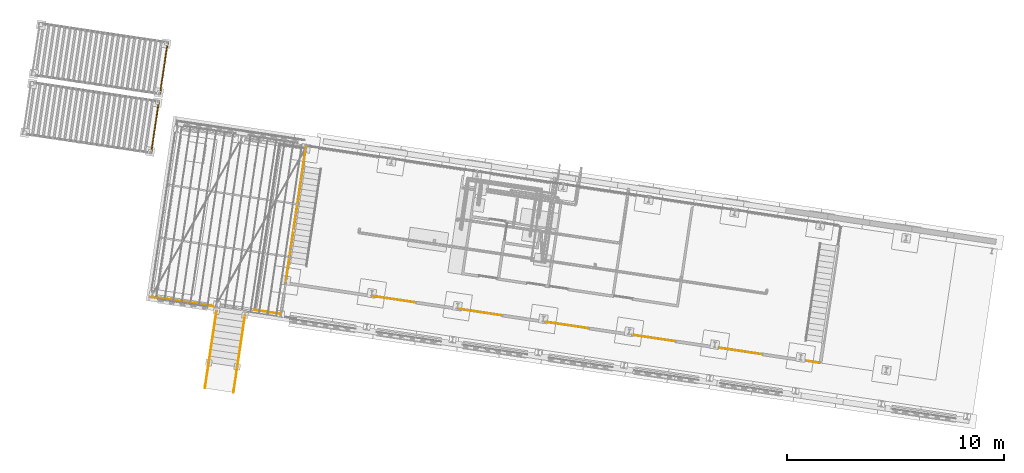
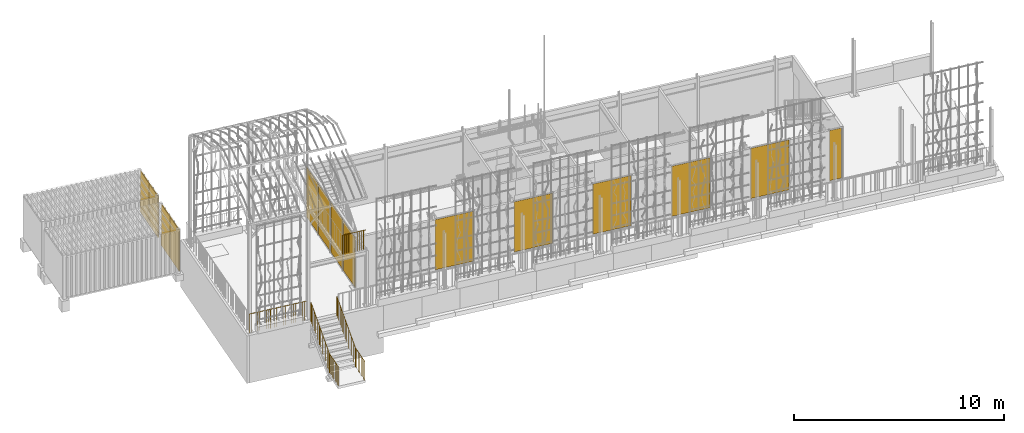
# One storey, part 132 of 142: 11 doors, 6 railings, 3 windows, 5 elements without a shape of their own.
"""IFC4 building model written with IfcOpenShell, lengths in metres."""

import ifcopenshell
import ifcopenshell.guid

model = None  # the IFC model being written
_history = None  # IfcOwnerHistory: only IFC2X3 demands one
_inside = {}  # id of a spatial element -> (the spatial element, [elements in it])
_under = {}  # id of a project, library or spatial element -> (it, [spatial elements below it])
_declared = {}  # id of a project -> (the project, [libraries it declares])
_typed = {}  # id of a type object -> (the type object, [elements of that type])
_made_of = {}  # id of a material, layer set ... -> (it, [elements and type objects made of it])


def new_model(schema):
    """Start an empty IFC model of exactly this schema.

    Asked for "IFC4X3", IfcOpenShell would pick the latest addendum, in which some entities
    have other attributes; the version numbers below select the first issue.
    IFC2X3 requires an IfcOwnerHistory on every rooted entity: one is made here for all.
    """
    global model, _history
    if schema == "IFC4X3":
        model = ifcopenshell.file(schema_version=(4, 3, 0, 0))
    else:
        model = ifcopenshell.file(schema=schema)
    _inside.clear()
    _under.clear()
    _declared.clear()
    _typed.clear()
    _made_of.clear()
    _history = None
    if model.schema == "IFC2X3":
        org = make("IfcOrganization", Name="unknown")
        user = make(
            "IfcPersonAndOrganization",
            ThePerson=make("IfcPerson", FamilyName="unknown"),
            TheOrganization=org,
        )
        app = make(
            "IfcApplication",
            ApplicationDeveloper=org,
            Version="unknown",
            ApplicationFullName="unknown",
            ApplicationIdentifier="unknown",
        )
        _history = make(
            "IfcOwnerHistory",
            OwningUser=user,
            OwningApplication=app,
            ChangeAction="ADDED",
            CreationDate=0,
        )
    return model


def make(cls, **values):
    """One entity of the class cls with the attributes given. An attribute that is None is left unset."""
    return model.create_entity(
        cls, **{name: value for name, value in values.items() if value is not None}
    )


def rooted(cls, **values):
    """An entity with a GlobalId (a new one), such as an element, a storey or a relation."""
    return make(cls, GlobalId=ifcopenshell.guid.new(), OwnerHistory=_history, **values)


def si_unit(unit_type, name, prefix=None):
    """IfcSIUnit, for example si_unit("LENGTHUNIT", "METRE", prefix="MILLI")."""
    return make("IfcSIUnit", UnitType=unit_type, Prefix=prefix, Name=name)


def assignment(units):
    """IfcUnitAssignment: the units of a project."""
    return None if units is None else make("IfcUnitAssignment", Units=units)


def point(xyz):
    """IfcCartesianPoint."""
    return None if xyz is None else make("IfcCartesianPoint", Coordinates=xyz)


def direction(xyz):
    """IfcDirection."""
    return None if xyz is None else make("IfcDirection", DirectionRatios=xyz)


def frame(location, z_axis=None, x_axis=None):
    """IfcAxis2Placement3D, a coordinate frame: its origin and axes. An axis left out is left unset."""
    return make(
        "IfcAxis2Placement3D",
        Location=point(location),
        Axis=direction(z_axis),
        RefDirection=direction(x_axis),
    )


def origin_with_axes():
    """The frame at (0, 0, 0) with the z axis (0, 0, 1) and the x axis (1, 0, 0) written out."""
    return frame((0.0, 0.0, 0.0), z_axis=(0.0, 0.0, 1.0), x_axis=(1.0, 0.0, 0.0))


def place(relative_to, where):
    """IfcLocalPlacement: puts the frame where relative to a parent placement (None: the world)."""
    return make(
        "IfcLocalPlacement", PlacementRelTo=relative_to, RelativePlacement=where
    )


def context(
    kind, dimensions, precision=None, world=None, true_north=None, identifier=None
):
    """IfcGeometricRepresentationContext, for example the 3D "Model" context."""
    return make(
        "IfcGeometricRepresentationContext",
        ContextIdentifier=identifier,
        ContextType=kind,
        CoordinateSpaceDimension=dimensions,
        Precision=precision,
        WorldCoordinateSystem=world,
        TrueNorth=true_north,
    )


def subcontext(parent, identifier, kind, view, scale=None):
    """IfcGeometricRepresentationSubContext, for example "Body" below "Model"."""
    return make(
        "IfcGeometricRepresentationSubContext",
        ContextIdentifier=identifier,
        ContextType=kind,
        ParentContext=parent,
        TargetScale=scale,
        TargetView=view,
    )


def project(units=None, contexts=None):
    """IfcProject with its units and contexts."""
    return rooted(
        "IfcProject",
        Name="project",
        RepresentationContexts=contexts,
        UnitsInContext=assignment(units),
    )


def spatial(cls, under=None, at=None, **own):
    """A site, building, storey or space (cls), placed at a placement, below another one or the project."""
    s = rooted(cls, ObjectPlacement=at, **own)
    if under is not None:
        _under.setdefault(under.id(), (under, []))[1].append(s)
    return s


def polyline(points):
    """IfcPolyline through the points."""
    return make("IfcPolyline", Points=[point(p) for p in points])


def profile(cls, at=None, kind="AREA", **sizes):
    """A parametric profile (cls). Its sizes go by their IFC names, for example OverallWidth=200.0."""
    return make(cls, ProfileType=kind, Position=at, **sizes)


def circle(**sizes):
    """IfcCircleProfileDef."""
    return profile("IfcCircleProfileDef", **sizes)


def outline(outer, holes=None, kind="AREA"):
    """IfcArbitraryClosedProfileDef: a profile drawn as a closed curve; with holes, ...WithVoids."""
    if holes is None:
        return make("IfcArbitraryClosedProfileDef", ProfileType=kind, OuterCurve=outer)
    return make(
        "IfcArbitraryProfileDefWithVoids",
        ProfileType=kind,
        OuterCurve=outer,
        InnerCurves=holes,
    )


def extrude(swept, where, along, depth):
    """IfcExtrudedAreaSolid: the profile swept, set in the frame where, extruded along a direction by depth."""
    return make(
        "IfcExtrudedAreaSolid",
        SweptArea=swept,
        Position=where,
        ExtrudedDirection=direction(along),
        Depth=depth,
    )


def shape(context_of_items, identifier, shape_type, items):
    """IfcShapeRepresentation: the items that make up one representation, for example the "Body"."""
    return make(
        "IfcShapeRepresentation",
        ContextOfItems=context_of_items,
        RepresentationIdentifier=identifier,
        RepresentationType=shape_type,
        Items=items,
    )


def material(Name=None, Category=None):
    """IfcMaterial."""
    return make("IfcMaterial", Name=Name, Category=Category)


def made_of(thing, what):
    """Note that an element or type object is made of a material, layer set ...; save() writes the relation."""
    if what is not None:
        _made_of.setdefault(what.id(), (what, []))[1].append(thing)
    return thing


def element(
    cls,
    number,
    at=None,
    inside=None,
    cuts=None,
    type_object=None,
    material=None,
    context=None,
    identifier="Body",
    shape_type=None,
    held_by="IfcProductDefinitionShape",
    body=None,
    shapes=None,
    **own,
):
    """One element of the class cls, such as IfcWall. Its Tag is "e" and its number.

    at: its placement. inside: the storey or other place that contains it. cuts: it is an
    opening in that element (IfcRelVoidsElement). A single representation is given by context,
    identifier, shape_type and body (its items); several are given by shapes. held_by: the class
    of the entity that holds the representations. save() writes the other relations.
    """
    e = rooted(cls, Tag="e%d" % number, ObjectPlacement=at, **own)
    if body is not None:
        shapes = [shape(context, identifier, shape_type, body)]
    if shapes is not None:
        e.Representation = make(held_by, Representations=shapes)
    if inside is not None:
        _inside.setdefault(inside.id(), (inside, []))[1].append(e)
    if cuts is not None:
        rooted(
            "IfcRelVoidsElement", RelatingBuildingElement=cuts, RelatedOpeningElement=e
        )
    if type_object is not None:
        _typed.setdefault(type_object.id(), (type_object, []))[1].append(e)
    return made_of(e, material)


def aggregate(whole, parts):
    """IfcRelAggregates: a whole, such as a stair, and the parts it consists of."""
    return rooted("IfcRelAggregates", RelatingObject=whole, RelatedObjects=parts)


def save(model, path):
    """Write the relations noted so far, then the file.

    IfcRelAggregates (storeys below a building ...), IfcRelContainedInSpatialStructure (elements
    in a storey), IfcRelDefinesByType, IfcRelAssociatesMaterial and IfcRelDeclares: one each for
    every whole, place, type object, material and project.
    """
    for whole, parts in _under.values():
        aggregate(whole, parts)
    for where, things in _inside.values():
        rooted(
            "IfcRelContainedInSpatialStructure",
            RelatedElements=things,
            RelatingStructure=where,
        )
    for kind, things in _typed.values():
        rooted("IfcRelDefinesByType", RelatedObjects=things, RelatingType=kind)
    for what, things in _made_of.values():
        rooted("IfcRelAssociatesMaterial", RelatedObjects=things, RelatingMaterial=what)
    for by, libraries in _declared.values():
        rooted("IfcRelDeclares", RelatingContext=by, RelatedDefinitions=libraries)
    model.write(path)


model = new_model("IFC4")

# Units and contexts
model_context = context("Model", 3, precision=1e-05, world=origin_with_axes(), true_north=direction((0.0, 1.0)))
body_context = subcontext(model_context, "Body", "Model", "MODEL_VIEW")
ifc_project = project(units=[si_unit("VOLUMEUNIT", "CUBIC_METRE"), si_unit("LENGTHUNIT", "METRE"), si_unit("AREAUNIT", "SQUARE_METRE")], contexts=[model_context])

# Site, building, storey
site_placement = place(None, origin_with_axes())
site = spatial("IfcSite", under=ifc_project, at=site_placement, Name="Lares · Rua das Mercês · artigo 4771")
building_placement = place(site_placement, frame((12.0, 10.2, 13.9), z_axis=(0.0, 0.0, 1.0), x_axis=(0.989015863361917, -0.147809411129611, 0.0)))
building = spatial("IfcBuilding", under=site, at=building_placement, Name="Casa Sobreposta")
storey_placement = place(building_placement, origin_with_axes())
storey = spatial("IfcBuildingStorey", under=building, at=storey_placement, Name="00 · Habitação e estacionamento", Elevation=13.9)

# Doors
ifc_material_1 = material(Name="Vidro / Normalglas", Category="glass")
door_1_placement = place(storey_placement, frame((0.0, 0.0, 0.025), z_axis=(0.0, 0.0, 1.0), x_axis=(1.0, 0.0, 0.0)))
element("IfcDoor", 1, at=door_1_placement, inside=storey, material=ifc_material_1, Name="Folha de correr sul 2", OperationType="SLIDING_TO_LEFT", OverallHeight=2.918, OverallWidth=1.97133333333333, PredefinedType="DOOR", context=body_context, shape_type="SweptSolid", body=[
    extrude(outline(polyline([(6.039, 0.004), (6.039, -0.004), (4.06766666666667, -0.004), (4.06766666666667, 0.004), (6.039, 0.004)])), origin_with_axes(), (0.0, 0.0, 1.0), 2.918),
])
door_2_placement = place(storey_placement, frame((0.0, 0.0, 0.025), z_axis=(0.0, 0.0, 1.0), x_axis=(1.0, 0.0, 0.0)))
element("IfcDoor", 2, at=door_2_placement, inside=storey, material=ifc_material_1, Name="Folha de correr sul 4", OperationType="SLIDING_TO_LEFT", OverallHeight=2.918, OverallWidth=1.97133333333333, PredefinedType="DOOR", context=body_context, shape_type="SweptSolid", body=[
    extrude(outline(polyline([(10.0816666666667, 0.004), (10.0816666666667, -0.004), (8.11033333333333, -0.004), (8.11033333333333, 0.004), (10.0816666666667, 0.004)])), origin_with_axes(), (0.0, 0.0, 1.0), 2.918),
])
door_3_placement = place(storey_placement, frame((0.0, 0.0, 0.025), z_axis=(0.0, 0.0, 1.0), x_axis=(1.0, 0.0, 0.0)))
element("IfcDoor", 3, at=door_3_placement, inside=storey, material=ifc_material_1, Name="Folha de correr sul 6", OperationType="SLIDING_TO_LEFT", OverallHeight=2.918, OverallWidth=1.97133333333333, PredefinedType="DOOR", context=body_context, shape_type="SweptSolid", body=[
    extrude(outline(polyline([(14.1243333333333, 0.004), (14.1243333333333, -0.004), (12.153, -0.004), (12.153, 0.004), (14.1243333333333, 0.004)])), origin_with_axes(), (0.0, 0.0, 1.0), 2.918),
])
door_4_placement = place(storey_placement, frame((0.0, 0.0, 0.025), z_axis=(0.0, 0.0, 1.0), x_axis=(1.0, 0.0, 0.0)))
element("IfcDoor", 4, at=door_4_placement, inside=storey, material=ifc_material_1, Name="Folha de correr sul 8", OperationType="SLIDING_TO_LEFT", OverallHeight=2.918, OverallWidth=1.97133333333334, PredefinedType="DOOR", context=body_context, shape_type="SweptSolid", body=[
    extrude(outline(polyline([(18.167, 0.004), (18.167, -0.004), (16.1956666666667, -0.004), (16.1956666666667, 0.004), (18.167, 0.004)])), origin_with_axes(), (0.0, 0.0, 1.0), 2.918),
])
door_5_placement = place(storey_placement, frame((0.0, 0.0, 0.025), z_axis=(0.0, 0.0, 1.0), x_axis=(1.0, 0.0, 0.0)))
element("IfcDoor", 5, at=door_5_placement, inside=storey, material=ifc_material_1, Name="Folha de correr sul 10", OperationType="SLIDING_TO_LEFT", OverallHeight=2.918, OverallWidth=1.97133333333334, PredefinedType="DOOR", context=body_context, shape_type="SweptSolid", body=[
    extrude(outline(polyline([(22.2096666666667, 0.004), (22.2096666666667, -0.004), (20.2383333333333, -0.004), (20.2383333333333, 0.004), (22.2096666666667, 0.004)])), origin_with_axes(), (0.0, 0.0, 1.0), 2.918),
])
door_6_placement = place(storey_placement, frame((0.0, 0.0, 0.025), z_axis=(0.0, 0.0, 1.0), x_axis=(1.0, 0.0, 0.0)))
element("IfcDoor", 6, at=door_6_placement, inside=storey, material=ifc_material_1, Name="Folha de correr sul 12", OperationType="SLIDING_TO_LEFT", OverallHeight=2.918, OverallWidth=0.614000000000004, PredefinedType="DOOR", context=body_context, shape_type="SweptSolid", body=[
    extrude(outline(polyline([(24.895, 0.004), (24.895, -0.004), (24.281, -0.004), (24.281, 0.004), (24.895, 0.004)])), origin_with_axes(), (0.0, 0.0, 1.0), 2.918),
])

# Windows
window_1_placement = place(storey_placement, frame((0.0, 0.0, 0.025), z_axis=(0.0, 0.0, 1.0), x_axis=(1.0, 0.0, 0.0)))
element("IfcWindow", 7, at=window_1_placement, inside=storey, material=ifc_material_1, Name="Fachada poente integralmente envidraçada · módulo 1", OverallHeight=2.918, OverallWidth=1.55, PartitioningType="SINGLE_PANEL", PredefinedType="WINDOW", context=body_context, shape_type="SweptSolid", body=[
    extrude(outline(polyline([(-0.004, 1.575), (0.004, 1.575), (0.004, 0.025), (-0.004, 0.025), (-0.004, 1.575)])), origin_with_axes(), (0.0, 0.0, 1.0), 2.918),
])
window_2_placement = place(storey_placement, frame((0.0, 0.0, 0.025), z_axis=(0.0, 0.0, 1.0), x_axis=(1.0, 0.0, 0.0)))
element("IfcWindow", 8, at=window_2_placement, inside=storey, material=ifc_material_1, Name="Fachada poente integralmente envidraçada · módulo 2", OverallHeight=2.918, OverallWidth=1.55, PartitioningType="SINGLE_PANEL", PredefinedType="WINDOW", context=body_context, shape_type="SweptSolid", body=[
    extrude(outline(polyline([(-0.004, 3.175), (0.004, 3.175), (0.004, 1.625), (-0.004, 1.625), (-0.004, 3.175)])), origin_with_axes(), (0.0, 0.0, 1.0), 2.918),
])
window_3_placement = place(storey_placement, frame((0.0, 0.0, 0.025), z_axis=(0.0, 0.0, 1.0), x_axis=(1.0, 0.0, 0.0)))
element("IfcWindow", 9, at=window_3_placement, inside=storey, material=ifc_material_1, Name="Fachada poente integralmente envidraçada · módulo 3", OverallHeight=2.918, OverallWidth=1.55, PartitioningType="SINGLE_PANEL", PredefinedType="WINDOW", context=body_context, shape_type="SweptSolid", body=[
    extrude(outline(polyline([(-0.004, 4.775), (0.004, 4.775), (0.004, 3.225), (-0.004, 3.225), (-0.004, 4.775)])), origin_with_axes(), (0.0, 0.0, 1.0), 2.918),
])

# Door
door_7_placement = place(storey_placement, frame((0.0, 0.0, 0.025), z_axis=(0.0, 0.0, 1.0), x_axis=(1.0, 0.0, 0.0)))
element("IfcDoor", 10, at=door_7_placement, inside=storey, material=ifc_material_1, Name="Fachada poente integralmente envidraçada · módulo 4", OperationType="SLIDING_TO_LEFT", OverallHeight=2.918, OverallWidth=1.55, PredefinedType="DOOR", context=body_context, shape_type="SweptSolid", body=[
    extrude(outline(polyline([(-0.004, 6.375), (0.004, 6.375), (0.004, 4.825), (-0.004, 4.825), (-0.004, 6.375)])), origin_with_axes(), (0.0, 0.0, 1.0), 2.918),
])

# Assembly, doors
assembly_1_placement = place(storey_placement, origin_with_axes())
assembly_1 = element("IfcElementAssembly", 11, at=assembly_1_placement, inside=storey, ObjectType="EXISTING_SHIPPING_CONTAINER", PredefinedType="USERDEFINED")
ifc_material_2 = material(Name="Contentor · pintura 1", Category="steel")
door_8_placement = place(assembly_1_placement, frame((0.0, 0.0, -0.494226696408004), z_axis=(0.0, 0.0, 1.0), x_axis=(1.0, 0.0, 0.0)))
door_8 = element("IfcDoor", 12, at=door_8_placement, material=ifc_material_2, Name="Contentor · porta dupla", OperationType="SINGLE_SWING_LEFT", OverallHeight=2.39, OverallWidth=1.17, PredefinedType="DOOR", context=body_context, shape_type="SweptSolid", body=[
    extrude(outline(polyline([(-7.045, 6.21), (-6.995, 6.21), (-6.995, 5.04), (-7.045, 5.04), (-7.045, 6.21)])), origin_with_axes(), (0.0, 0.0, 1.0), 2.39),
])
door_9_placement = place(assembly_1_placement, frame((0.0, 0.0, -0.494226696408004), z_axis=(0.0, 0.0, 1.0), x_axis=(1.0, 0.0, 0.0)))
door_9 = element("IfcDoor", 13, at=door_9_placement, material=ifc_material_2, Name="Contentor · porta dupla", OperationType="SINGLE_SWING_LEFT", OverallHeight=2.39, OverallWidth=1.17, PredefinedType="DOOR", context=body_context, shape_type="SweptSolid", body=[
    extrude(outline(polyline([(-7.045, 7.39), (-6.995, 7.39), (-6.995, 6.22), (-7.045, 6.22), (-7.045, 7.39)])), origin_with_axes(), (0.0, 0.0, 1.0), 2.39),
])
aggregate(assembly_1, [door_8, door_9])

assembly_2_placement = place(storey_placement, origin_with_axes())
assembly_2 = element("IfcElementAssembly", 14, at=assembly_2_placement, inside=storey, ObjectType="EXISTING_SHIPPING_CONTAINER", PredefinedType="USERDEFINED")
ifc_material_3 = material(Name="Contentor · pintura 2", Category="steel")
door_10_placement = place(assembly_2_placement, frame((0.0, 0.0, -0.329831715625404), z_axis=(0.0, 0.0, 1.0), x_axis=(1.0, 0.0, 0.0)))
door_10 = element("IfcDoor", 15, at=door_10_placement, material=ifc_material_3, Name="Contentor · porta dupla", OperationType="SINGLE_SWING_LEFT", OverallHeight=2.39, OverallWidth=1.17, PredefinedType="DOOR", context=body_context, shape_type="SweptSolid", body=[
    extrude(outline(polyline([(-7.045, 8.96), (-6.995, 8.96), (-6.995, 7.79), (-7.045, 7.79), (-7.045, 8.96)])), origin_with_axes(), (0.0, 0.0, 1.0), 2.39),
])
door_11_placement = place(assembly_2_placement, frame((0.0, 0.0, -0.329831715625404), z_axis=(0.0, 0.0, 1.0), x_axis=(1.0, 0.0, 0.0)))
door_11 = element("IfcDoor", 16, at=door_11_placement, material=ifc_material_3, Name="Contentor · porta dupla", OperationType="SINGLE_SWING_LEFT", OverallHeight=2.39, OverallWidth=1.17, PredefinedType="DOOR", context=body_context, shape_type="SweptSolid", body=[
    extrude(outline(polyline([(-7.045, 10.14), (-6.995, 10.14), (-6.995, 8.97), (-7.045, 8.97), (-7.045, 10.14)])), origin_with_axes(), (0.0, 0.0, 1.0), 2.39),
])
aggregate(assembly_2, [door_10, door_11])

# Assembly, railing
assembly_3_placement = place(storey_placement, origin_with_axes())
assembly_3 = element("IfcElementAssembly", 17, at=assembly_3_placement, inside=storey, Name="Pódio · projeção da estufa e cisterna", ObjectType="CISTERN_PODIUM", PredefinedType="USERDEFINED")
ifc_material_4 = material(Name="Aço pintado / Stahl lackiert", Category="steel")
railing_1_placement = place(assembly_3_placement, origin_with_axes())
railing_1 = element("IfcRailing", 18, at=railing_1_placement, material=ifc_material_4, Name="Pódio · guarda sul poente", PredefinedType="GUARDRAIL", context=body_context, shape_type="SweptSolid", body=[
    extrude(circle(Radius=0.015), frame((-6.05, -1.55, 1.06), z_axis=(1.0, 0.0, 0.0), x_axis=(0.0, -1.0, 0.0)), (0.0, 0.0, 1.0), 2.93),
    extrude(circle(Radius=0.0175), frame((-6.05, -1.55, -0.04), z_axis=(0.0, 0.0, 1.0), x_axis=(1.0, 0.0, 0.0)), (0.0, 0.0, 1.0), 1.1),
    extrude(circle(Radius=0.006), frame((-5.94148148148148, -1.55, -0.04), z_axis=(0.0, 0.0, 1.0), x_axis=(1.0, 0.0, 0.0)), (0.0, 0.0, 1.0), 1.1),
    extrude(circle(Radius=0.006), frame((-5.83296296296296, -1.55, -0.04), z_axis=(0.0, 0.0, 1.0), x_axis=(1.0, 0.0, 0.0)), (0.0, 0.0, 1.0), 1.1),
    extrude(circle(Radius=0.006), frame((-5.72444444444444, -1.55, -0.04), z_axis=(0.0, 0.0, 1.0), x_axis=(1.0, 0.0, 0.0)), (0.0, 0.0, 1.0), 1.1),
    extrude(circle(Radius=0.006), frame((-5.61592592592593, -1.55, -0.04), z_axis=(0.0, 0.0, 1.0), x_axis=(1.0, 0.0, 0.0)), (0.0, 0.0, 1.0), 1.1),
    extrude(circle(Radius=0.006), frame((-5.50740740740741, -1.55, -0.04), z_axis=(0.0, 0.0, 1.0), x_axis=(1.0, 0.0, 0.0)), (0.0, 0.0, 1.0), 1.1),
    extrude(circle(Radius=0.006), frame((-5.39888888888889, -1.55, -0.04), z_axis=(0.0, 0.0, 1.0), x_axis=(1.0, 0.0, 0.0)), (0.0, 0.0, 1.0), 1.1),
    extrude(circle(Radius=0.006), frame((-5.29037037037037, -1.55, -0.04), z_axis=(0.0, 0.0, 1.0), x_axis=(1.0, 0.0, 0.0)), (0.0, 0.0, 1.0), 1.1),
    extrude(circle(Radius=0.006), frame((-5.18185185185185, -1.55, -0.04), z_axis=(0.0, 0.0, 1.0), x_axis=(1.0, 0.0, 0.0)), (0.0, 0.0, 1.0), 1.1),
    extrude(circle(Radius=0.006), frame((-5.07333333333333, -1.55, -0.04), z_axis=(0.0, 0.0, 1.0), x_axis=(1.0, 0.0, 0.0)), (0.0, 0.0, 1.0), 1.1),
    extrude(circle(Radius=0.0175), frame((-4.96481481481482, -1.55, -0.04), z_axis=(0.0, 0.0, 1.0), x_axis=(1.0, 0.0, 0.0)), (0.0, 0.0, 1.0), 1.1),
    extrude(circle(Radius=0.006), frame((-4.8562962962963, -1.55, -0.04), z_axis=(0.0, 0.0, 1.0), x_axis=(1.0, 0.0, 0.0)), (0.0, 0.0, 1.0), 1.1),
    extrude(circle(Radius=0.006), frame((-4.74777777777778, -1.55, -0.04), z_axis=(0.0, 0.0, 1.0), x_axis=(1.0, 0.0, 0.0)), (0.0, 0.0, 1.0), 1.1),
    extrude(circle(Radius=0.006), frame((-4.63925925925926, -1.55, -0.04), z_axis=(0.0, 0.0, 1.0), x_axis=(1.0, 0.0, 0.0)), (0.0, 0.0, 1.0), 1.1),
    extrude(circle(Radius=0.006), frame((-4.53074074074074, -1.55, -0.04), z_axis=(0.0, 0.0, 1.0), x_axis=(1.0, 0.0, 0.0)), (0.0, 0.0, 1.0), 1.1),
    extrude(circle(Radius=0.006), frame((-4.42222222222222, -1.55, -0.04), z_axis=(0.0, 0.0, 1.0), x_axis=(1.0, 0.0, 0.0)), (0.0, 0.0, 1.0), 1.1),
    extrude(circle(Radius=0.006), frame((-4.3137037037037, -1.55, -0.04), z_axis=(0.0, 0.0, 1.0), x_axis=(1.0, 0.0, 0.0)), (0.0, 0.0, 1.0), 1.1),
    extrude(circle(Radius=0.006), frame((-4.20518518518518, -1.55, -0.04), z_axis=(0.0, 0.0, 1.0), x_axis=(1.0, 0.0, 0.0)), (0.0, 0.0, 1.0), 1.1),
    extrude(circle(Radius=0.006), frame((-4.09666666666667, -1.55, -0.04), z_axis=(0.0, 0.0, 1.0), x_axis=(1.0, 0.0, 0.0)), (0.0, 0.0, 1.0), 1.1),
    extrude(circle(Radius=0.006), frame((-3.98814814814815, -1.55, -0.04), z_axis=(0.0, 0.0, 1.0), x_axis=(1.0, 0.0, 0.0)), (0.0, 0.0, 1.0), 1.1),
    extrude(circle(Radius=0.0175), frame((-3.87962962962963, -1.55, -0.04), z_axis=(0.0, 0.0, 1.0), x_axis=(1.0, 0.0, 0.0)), (0.0, 0.0, 1.0), 1.1),
    extrude(circle(Radius=0.006), frame((-3.77111111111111, -1.55, -0.04), z_axis=(0.0, 0.0, 1.0), x_axis=(1.0, 0.0, 0.0)), (0.0, 0.0, 1.0), 1.1),
    extrude(circle(Radius=0.006), frame((-3.66259259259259, -1.55, -0.04), z_axis=(0.0, 0.0, 1.0), x_axis=(1.0, 0.0, 0.0)), (0.0, 0.0, 1.0), 1.1),
    extrude(circle(Radius=0.006), frame((-3.55407407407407, -1.55, -0.04), z_axis=(0.0, 0.0, 1.0), x_axis=(1.0, 0.0, 0.0)), (0.0, 0.0, 1.0), 1.1),
    extrude(circle(Radius=0.006), frame((-3.44555555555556, -1.55, -0.04), z_axis=(0.0, 0.0, 1.0), x_axis=(1.0, 0.0, 0.0)), (0.0, 0.0, 1.0), 1.1),
    extrude(circle(Radius=0.006), frame((-3.33703703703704, -1.55, -0.04), z_axis=(0.0, 0.0, 1.0), x_axis=(1.0, 0.0, 0.0)), (0.0, 0.0, 1.0), 1.1),
    extrude(circle(Radius=0.006), frame((-3.22851851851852, -1.55, -0.04), z_axis=(0.0, 0.0, 1.0), x_axis=(1.0, 0.0, 0.0)), (0.0, 0.0, 1.0), 1.1),
    extrude(circle(Radius=0.006), frame((-3.12, -1.55, -0.04), z_axis=(0.0, 0.0, 1.0), x_axis=(1.0, 0.0, 0.0)), (0.0, 0.0, 1.0), 1.1),
])
aggregate(assembly_3, [railing_1])

# Stair, railings
stair_placement = place(storey_placement, origin_with_axes())
stair = element("IfcStair", 19, at=stair_placement, inside=storey, Name="Jardim · acesso do terraço", PredefinedType="STRAIGHT_RUN_STAIR")
railing_2_placement = place(stair_placement, origin_with_axes())
railing_2 = element("IfcRailing", 20, at=railing_2_placement, material=ifc_material_4, Name="Jardim · guarda e corrimão", PredefinedType="GUARDRAIL", context=body_context, shape_type="SweptSolid", body=[
    extrude(circle(Radius=0.015), frame((-2.965, -1.75, 1.06), z_axis=(0.0, -0.862211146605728, -0.506549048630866), x_axis=(-1.0, 0.0, 0.0)), (0.0, 0.0, 1.0), 2.78354091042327),
    extrude(circle(Radius=0.0175), frame((-2.965, -1.75, -0.04), z_axis=(0.0, 0.0, 1.0), x_axis=(1.0, 0.0, 0.0)), (0.0, 0.0, 1.0), 1.1),
    extrude(circle(Radius=0.006), frame((-2.965, -1.85909090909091, -0.104090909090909), z_axis=(0.0, 0.0, 1.0), x_axis=(1.0, 0.0, 0.0)), (0.0, 0.0, 1.0), 1.1),
    extrude(circle(Radius=0.006), frame((-2.965, -1.96818181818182, -0.168181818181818), z_axis=(0.0, 0.0, 1.0), x_axis=(1.0, 0.0, 0.0)), (0.0, 0.0, 1.0), 1.1),
    extrude(circle(Radius=0.006), frame((-2.965, -2.07727272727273, -0.232272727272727), z_axis=(0.0, 0.0, 1.0), x_axis=(1.0, 0.0, 0.0)), (0.0, 0.0, 1.0), 1.1),
    extrude(circle(Radius=0.006), frame((-2.965, -2.18636363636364, -0.296363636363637), z_axis=(0.0, 0.0, 1.0), x_axis=(1.0, 0.0, 0.0)), (0.0, 0.0, 1.0), 1.1),
    extrude(circle(Radius=0.006), frame((-2.965, -2.29545454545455, -0.360454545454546), z_axis=(0.0, 0.0, 1.0), x_axis=(1.0, 0.0, 0.0)), (0.0, 0.0, 1.0), 1.1),
    extrude(circle(Radius=0.006), frame((-2.965, -2.40454545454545, -0.424545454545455), z_axis=(0.0, 0.0, 1.0), x_axis=(1.0, 0.0, 0.0)), (0.0, 0.0, 1.0), 1.1),
    extrude(circle(Radius=0.006), frame((-2.965, -2.51363636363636, -0.488636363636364), z_axis=(0.0, 0.0, 1.0), x_axis=(1.0, 0.0, 0.0)), (0.0, 0.0, 1.0), 1.1),
    extrude(circle(Radius=0.006), frame((-2.965, -2.62272727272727, -0.552727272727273), z_axis=(0.0, 0.0, 1.0), x_axis=(1.0, 0.0, 0.0)), (0.0, 0.0, 1.0), 1.1),
    extrude(circle(Radius=0.006), frame((-2.965, -2.73181818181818, -0.616818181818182), z_axis=(0.0, 0.0, 1.0), x_axis=(1.0, 0.0, 0.0)), (0.0, 0.0, 1.0), 1.1),
    extrude(circle(Radius=0.0175), frame((-2.965, -2.84090909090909, -0.680909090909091), z_axis=(0.0, 0.0, 1.0), x_axis=(1.0, 0.0, 0.0)), (0.0, 0.0, 1.0), 1.1),
    extrude(circle(Radius=0.006), frame((-2.965, -2.95, -0.745000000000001), z_axis=(0.0, 0.0, 1.0), x_axis=(1.0, 0.0, 0.0)), (0.0, 0.0, 1.0), 1.1),
    extrude(circle(Radius=0.006), frame((-2.965, -3.05909090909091, -0.80909090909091), z_axis=(0.0, 0.0, 1.0), x_axis=(1.0, 0.0, 0.0)), (0.0, 0.0, 1.0), 1.1),
    extrude(circle(Radius=0.006), frame((-2.965, -3.16818181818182, -0.873181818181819), z_axis=(0.0, 0.0, 1.0), x_axis=(1.0, 0.0, 0.0)), (0.0, 0.0, 1.0), 1.1),
    extrude(circle(Radius=0.006), frame((-2.965, -3.27727272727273, -0.937272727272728), z_axis=(0.0, 0.0, 1.0), x_axis=(1.0, 0.0, 0.0)), (0.0, 0.0, 1.0), 1.1),
    extrude(circle(Radius=0.006), frame((-2.965, -3.38636363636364, -1.00136363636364), z_axis=(0.0, 0.0, 1.0), x_axis=(1.0, 0.0, 0.0)), (0.0, 0.0, 1.0), 1.1),
    extrude(circle(Radius=0.006), frame((-2.965, -3.49545454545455, -1.06545454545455), z_axis=(0.0, 0.0, 1.0), x_axis=(1.0, 0.0, 0.0)), (0.0, 0.0, 1.0), 1.1),
    extrude(circle(Radius=0.006), frame((-2.965, -3.60454545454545, -1.12954545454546), z_axis=(0.0, 0.0, 1.0), x_axis=(1.0, 0.0, 0.0)), (0.0, 0.0, 1.0), 1.1),
    extrude(circle(Radius=0.006), frame((-2.965, -3.71363636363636, -1.19363636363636), z_axis=(0.0, 0.0, 1.0), x_axis=(1.0, 0.0, 0.0)), (0.0, 0.0, 1.0), 1.1),
    extrude(circle(Radius=0.006), frame((-2.965, -3.82272727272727, -1.25772727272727), z_axis=(0.0, 0.0, 1.0), x_axis=(1.0, 0.0, 0.0)), (0.0, 0.0, 1.0), 1.1),
    extrude(circle(Radius=0.0175), frame((-2.965, -3.93181818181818, -1.32181818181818), z_axis=(0.0, 0.0, 1.0), x_axis=(1.0, 0.0, 0.0)), (0.0, 0.0, 1.0), 1.1),
    extrude(circle(Radius=0.006), frame((-2.965, -4.04090909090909, -1.38590909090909), z_axis=(0.0, 0.0, 1.0), x_axis=(1.0, 0.0, 0.0)), (0.0, 0.0, 1.0), 1.1),
    extrude(circle(Radius=0.006), frame((-2.965, -4.15, -1.45), z_axis=(0.0, 0.0, 1.0), x_axis=(1.0, 0.0, 0.0)), (0.0, 0.0, 1.0), 1.1),
])
railing_3_placement = place(stair_placement, origin_with_axes())
railing_3 = element("IfcRailing", 21, at=railing_3_placement, material=ifc_material_4, Name="Jardim · chegada", PredefinedType="GUARDRAIL", context=body_context, shape_type="SweptSolid", body=[
    extrude(circle(Radius=0.015), frame((-2.965, -4.15, -0.350000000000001), z_axis=(0.0, -1.0, 0.0), x_axis=(-1.0, 0.0, 0.0)), (0.0, 0.0, 1.0), 1.2),
    extrude(circle(Radius=0.0175), frame((-2.965, -4.15, -1.45), z_axis=(0.0, 0.0, 1.0), x_axis=(1.0, 0.0, 0.0)), (0.0, 0.0, 1.0), 1.1),
    extrude(circle(Radius=0.006), frame((-2.965, -4.25909090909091, -1.45), z_axis=(0.0, 0.0, 1.0), x_axis=(1.0, 0.0, 0.0)), (0.0, 0.0, 1.0), 1.1),
    extrude(circle(Radius=0.006), frame((-2.965, -4.36818181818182, -1.45), z_axis=(0.0, 0.0, 1.0), x_axis=(1.0, 0.0, 0.0)), (0.0, 0.0, 1.0), 1.1),
    extrude(circle(Radius=0.006), frame((-2.965, -4.47727272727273, -1.45), z_axis=(0.0, 0.0, 1.0), x_axis=(1.0, 0.0, 0.0)), (0.0, 0.0, 1.0), 1.1),
    extrude(circle(Radius=0.006), frame((-2.965, -4.58636363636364, -1.45), z_axis=(0.0, 0.0, 1.0), x_axis=(1.0, 0.0, 0.0)), (0.0, 0.0, 1.0), 1.1),
    extrude(circle(Radius=0.006), frame((-2.965, -4.69545454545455, -1.45), z_axis=(0.0, 0.0, 1.0), x_axis=(1.0, 0.0, 0.0)), (0.0, 0.0, 1.0), 1.1),
    extrude(circle(Radius=0.006), frame((-2.965, -4.80454545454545, -1.45), z_axis=(0.0, 0.0, 1.0), x_axis=(1.0, 0.0, 0.0)), (0.0, 0.0, 1.0), 1.1),
    extrude(circle(Radius=0.006), frame((-2.965, -4.91363636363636, -1.45), z_axis=(0.0, 0.0, 1.0), x_axis=(1.0, 0.0, 0.0)), (0.0, 0.0, 1.0), 1.1),
    extrude(circle(Radius=0.006), frame((-2.965, -5.02272727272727, -1.45), z_axis=(0.0, 0.0, 1.0), x_axis=(1.0, 0.0, 0.0)), (0.0, 0.0, 1.0), 1.1),
    extrude(circle(Radius=0.006), frame((-2.965, -5.13181818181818, -1.45), z_axis=(0.0, 0.0, 1.0), x_axis=(1.0, 0.0, 0.0)), (0.0, 0.0, 1.0), 1.1),
    extrude(circle(Radius=0.0175), frame((-2.965, -5.24090909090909, -1.45), z_axis=(0.0, 0.0, 1.0), x_axis=(1.0, 0.0, 0.0)), (0.0, 0.0, 1.0), 1.1),
    extrude(circle(Radius=0.006), frame((-2.965, -5.35, -1.45), z_axis=(0.0, 0.0, 1.0), x_axis=(1.0, 0.0, 0.0)), (0.0, 0.0, 1.0), 1.1),
])
railing_4_placement = place(stair_placement, origin_with_axes())
railing_4 = element("IfcRailing", 22, at=railing_4_placement, material=ifc_material_4, Name="Jardim · guarda e corrimão", PredefinedType="GUARDRAIL", context=body_context, shape_type="SweptSolid", body=[
    extrude(circle(Radius=0.015), frame((-1.635, -1.75, 1.06), z_axis=(0.0, -0.862211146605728, -0.506549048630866), x_axis=(-1.0, 0.0, 0.0)), (0.0, 0.0, 1.0), 2.78354091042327),
    extrude(circle(Radius=0.0175), frame((-1.635, -1.75, -0.04), z_axis=(0.0, 0.0, 1.0), x_axis=(1.0, 0.0, 0.0)), (0.0, 0.0, 1.0), 1.1),
    extrude(circle(Radius=0.006), frame((-1.635, -1.85909090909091, -0.104090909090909), z_axis=(0.0, 0.0, 1.0), x_axis=(1.0, 0.0, 0.0)), (0.0, 0.0, 1.0), 1.1),
    extrude(circle(Radius=0.006), frame((-1.635, -1.96818181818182, -0.168181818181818), z_axis=(0.0, 0.0, 1.0), x_axis=(1.0, 0.0, 0.0)), (0.0, 0.0, 1.0), 1.1),
    extrude(circle(Radius=0.006), frame((-1.635, -2.07727272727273, -0.232272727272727), z_axis=(0.0, 0.0, 1.0), x_axis=(1.0, 0.0, 0.0)), (0.0, 0.0, 1.0), 1.1),
    extrude(circle(Radius=0.006), frame((-1.635, -2.18636363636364, -0.296363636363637), z_axis=(0.0, 0.0, 1.0), x_axis=(1.0, 0.0, 0.0)), (0.0, 0.0, 1.0), 1.1),
    extrude(circle(Radius=0.006), frame((-1.635, -2.29545454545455, -0.360454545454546), z_axis=(0.0, 0.0, 1.0), x_axis=(1.0, 0.0, 0.0)), (0.0, 0.0, 1.0), 1.1),
    extrude(circle(Radius=0.006), frame((-1.635, -2.40454545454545, -0.424545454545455), z_axis=(0.0, 0.0, 1.0), x_axis=(1.0, 0.0, 0.0)), (0.0, 0.0, 1.0), 1.1),
    extrude(circle(Radius=0.006), frame((-1.635, -2.51363636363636, -0.488636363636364), z_axis=(0.0, 0.0, 1.0), x_axis=(1.0, 0.0, 0.0)), (0.0, 0.0, 1.0), 1.1),
    extrude(circle(Radius=0.006), frame((-1.635, -2.62272727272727, -0.552727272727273), z_axis=(0.0, 0.0, 1.0), x_axis=(1.0, 0.0, 0.0)), (0.0, 0.0, 1.0), 1.1),
    extrude(circle(Radius=0.006), frame((-1.635, -2.73181818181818, -0.616818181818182), z_axis=(0.0, 0.0, 1.0), x_axis=(1.0, 0.0, 0.0)), (0.0, 0.0, 1.0), 1.1),
    extrude(circle(Radius=0.0175), frame((-1.635, -2.84090909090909, -0.680909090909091), z_axis=(0.0, 0.0, 1.0), x_axis=(1.0, 0.0, 0.0)), (0.0, 0.0, 1.0), 1.1),
    extrude(circle(Radius=0.006), frame((-1.635, -2.95, -0.745000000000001), z_axis=(0.0, 0.0, 1.0), x_axis=(1.0, 0.0, 0.0)), (0.0, 0.0, 1.0), 1.1),
    extrude(circle(Radius=0.006), frame((-1.635, -3.05909090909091, -0.80909090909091), z_axis=(0.0, 0.0, 1.0), x_axis=(1.0, 0.0, 0.0)), (0.0, 0.0, 1.0), 1.1),
    extrude(circle(Radius=0.006), frame((-1.635, -3.16818181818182, -0.873181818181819), z_axis=(0.0, 0.0, 1.0), x_axis=(1.0, 0.0, 0.0)), (0.0, 0.0, 1.0), 1.1),
    extrude(circle(Radius=0.006), frame((-1.635, -3.27727272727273, -0.937272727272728), z_axis=(0.0, 0.0, 1.0), x_axis=(1.0, 0.0, 0.0)), (0.0, 0.0, 1.0), 1.1),
    extrude(circle(Radius=0.006), frame((-1.635, -3.38636363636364, -1.00136363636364), z_axis=(0.0, 0.0, 1.0), x_axis=(1.0, 0.0, 0.0)), (0.0, 0.0, 1.0), 1.1),
    extrude(circle(Radius=0.006), frame((-1.635, -3.49545454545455, -1.06545454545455), z_axis=(0.0, 0.0, 1.0), x_axis=(1.0, 0.0, 0.0)), (0.0, 0.0, 1.0), 1.1),
    extrude(circle(Radius=0.006), frame((-1.635, -3.60454545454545, -1.12954545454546), z_axis=(0.0, 0.0, 1.0), x_axis=(1.0, 0.0, 0.0)), (0.0, 0.0, 1.0), 1.1),
    extrude(circle(Radius=0.006), frame((-1.635, -3.71363636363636, -1.19363636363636), z_axis=(0.0, 0.0, 1.0), x_axis=(1.0, 0.0, 0.0)), (0.0, 0.0, 1.0), 1.1),
    extrude(circle(Radius=0.006), frame((-1.635, -3.82272727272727, -1.25772727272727), z_axis=(0.0, 0.0, 1.0), x_axis=(1.0, 0.0, 0.0)), (0.0, 0.0, 1.0), 1.1),
    extrude(circle(Radius=0.0175), frame((-1.635, -3.93181818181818, -1.32181818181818), z_axis=(0.0, 0.0, 1.0), x_axis=(1.0, 0.0, 0.0)), (0.0, 0.0, 1.0), 1.1),
    extrude(circle(Radius=0.006), frame((-1.635, -4.04090909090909, -1.38590909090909), z_axis=(0.0, 0.0, 1.0), x_axis=(1.0, 0.0, 0.0)), (0.0, 0.0, 1.0), 1.1),
    extrude(circle(Radius=0.006), frame((-1.635, -4.15, -1.45), z_axis=(0.0, 0.0, 1.0), x_axis=(1.0, 0.0, 0.0)), (0.0, 0.0, 1.0), 1.1),
])
railing_5_placement = place(stair_placement, origin_with_axes())
railing_5 = element("IfcRailing", 23, at=railing_5_placement, material=ifc_material_4, Name="Jardim · chegada", PredefinedType="GUARDRAIL", context=body_context, shape_type="SweptSolid", body=[
    extrude(circle(Radius=0.015), frame((-1.635, -4.15, -0.350000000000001), z_axis=(0.0, -1.0, 0.0), x_axis=(-1.0, 0.0, 0.0)), (0.0, 0.0, 1.0), 1.2),
    extrude(circle(Radius=0.0175), frame((-1.635, -4.15, -1.45), z_axis=(0.0, 0.0, 1.0), x_axis=(1.0, 0.0, 0.0)), (0.0, 0.0, 1.0), 1.1),
    extrude(circle(Radius=0.006), frame((-1.635, -4.25909090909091, -1.45), z_axis=(0.0, 0.0, 1.0), x_axis=(1.0, 0.0, 0.0)), (0.0, 0.0, 1.0), 1.1),
    extrude(circle(Radius=0.006), frame((-1.635, -4.36818181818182, -1.45), z_axis=(0.0, 0.0, 1.0), x_axis=(1.0, 0.0, 0.0)), (0.0, 0.0, 1.0), 1.1),
    extrude(circle(Radius=0.006), frame((-1.635, -4.47727272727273, -1.45), z_axis=(0.0, 0.0, 1.0), x_axis=(1.0, 0.0, 0.0)), (0.0, 0.0, 1.0), 1.1),
    extrude(circle(Radius=0.006), frame((-1.635, -4.58636363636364, -1.45), z_axis=(0.0, 0.0, 1.0), x_axis=(1.0, 0.0, 0.0)), (0.0, 0.0, 1.0), 1.1),
    extrude(circle(Radius=0.006), frame((-1.635, -4.69545454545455, -1.45), z_axis=(0.0, 0.0, 1.0), x_axis=(1.0, 0.0, 0.0)), (0.0, 0.0, 1.0), 1.1),
    extrude(circle(Radius=0.006), frame((-1.635, -4.80454545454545, -1.45), z_axis=(0.0, 0.0, 1.0), x_axis=(1.0, 0.0, 0.0)), (0.0, 0.0, 1.0), 1.1),
    extrude(circle(Radius=0.006), frame((-1.635, -4.91363636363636, -1.45), z_axis=(0.0, 0.0, 1.0), x_axis=(1.0, 0.0, 0.0)), (0.0, 0.0, 1.0), 1.1),
    extrude(circle(Radius=0.006), frame((-1.635, -5.02272727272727, -1.45), z_axis=(0.0, 0.0, 1.0), x_axis=(1.0, 0.0, 0.0)), (0.0, 0.0, 1.0), 1.1),
    extrude(circle(Radius=0.006), frame((-1.635, -5.13181818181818, -1.45), z_axis=(0.0, 0.0, 1.0), x_axis=(1.0, 0.0, 0.0)), (0.0, 0.0, 1.0), 1.1),
    extrude(circle(Radius=0.0175), frame((-1.635, -5.24090909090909, -1.45), z_axis=(0.0, 0.0, 1.0), x_axis=(1.0, 0.0, 0.0)), (0.0, 0.0, 1.0), 1.1),
    extrude(circle(Radius=0.006), frame((-1.635, -5.35, -1.45), z_axis=(0.0, 0.0, 1.0), x_axis=(1.0, 0.0, 0.0)), (0.0, 0.0, 1.0), 1.1),
])
aggregate(stair, [railing_2, railing_3, railing_4, railing_5])

# Assembly, railing
assembly_4_placement = place(storey_placement, origin_with_axes())
assembly_4 = element("IfcElementAssembly", 24, at=assembly_4_placement, inside=storey, Name="Pérgola · prolongamento da estufa 6 m", ObjectType="PERGOLA_GREENHOUSE_EXTENSION", PredefinedType="USERDEFINED")
railing_6_placement = place(assembly_4_placement, origin_with_axes())
railing_6 = element("IfcRailing", 25, at=railing_6_placement, material=ifc_material_4, Name="Varanda · guarda", PredefinedType="GUARDRAIL", context=body_context, shape_type="SweptSolid", body=[
    extrude(circle(Radius=0.015), frame((-1.225, -1.44, 4.34), z_axis=(1.0, 0.0, 0.0), x_axis=(0.0, -1.0, 0.0)), (0.0, 0.0, 1.0), 1.175),
    extrude(circle(Radius=0.0175), frame((-1.225, -1.44, 3.24), z_axis=(0.0, 0.0, 1.0), x_axis=(1.0, 0.0, 0.0)), (0.0, 0.0, 1.0), 1.1),
    extrude(circle(Radius=0.006), frame((-1.11818181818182, -1.44, 3.24), z_axis=(0.0, 0.0, 1.0), x_axis=(1.0, 0.0, 0.0)), (0.0, 0.0, 1.0), 1.1),
    extrude(circle(Radius=0.006), frame((-1.01136363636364, -1.44, 3.24), z_axis=(0.0, 0.0, 1.0), x_axis=(1.0, 0.0, 0.0)), (0.0, 0.0, 1.0), 1.1),
    extrude(circle(Radius=0.006), frame((-0.904545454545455, -1.44, 3.24), z_axis=(0.0, 0.0, 1.0), x_axis=(1.0, 0.0, 0.0)), (0.0, 0.0, 1.0), 1.1),
    extrude(circle(Radius=0.006), frame((-0.797727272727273, -1.44, 3.24), z_axis=(0.0, 0.0, 1.0), x_axis=(1.0, 0.0, 0.0)), (0.0, 0.0, 1.0), 1.1),
    extrude(circle(Radius=0.006), frame((-0.690909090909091, -1.44, 3.24), z_axis=(0.0, 0.0, 1.0), x_axis=(1.0, 0.0, 0.0)), (0.0, 0.0, 1.0), 1.1),
    extrude(circle(Radius=0.006), frame((-0.584090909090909, -1.44, 3.24), z_axis=(0.0, 0.0, 1.0), x_axis=(1.0, 0.0, 0.0)), (0.0, 0.0, 1.0), 1.1),
    extrude(circle(Radius=0.006), frame((-0.477272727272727, -1.44, 3.24), z_axis=(0.0, 0.0, 1.0), x_axis=(1.0, 0.0, 0.0)), (0.0, 0.0, 1.0), 1.1),
    extrude(circle(Radius=0.006), frame((-0.370454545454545, -1.44, 3.24), z_axis=(0.0, 0.0, 1.0), x_axis=(1.0, 0.0, 0.0)), (0.0, 0.0, 1.0), 1.1),
    extrude(circle(Radius=0.006), frame((-0.263636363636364, -1.44, 3.24), z_axis=(0.0, 0.0, 1.0), x_axis=(1.0, 0.0, 0.0)), (0.0, 0.0, 1.0), 1.1),
    extrude(circle(Radius=0.0175), frame((-0.156818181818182, -1.44, 3.24), z_axis=(0.0, 0.0, 1.0), x_axis=(1.0, 0.0, 0.0)), (0.0, 0.0, 1.0), 1.1),
    extrude(circle(Radius=0.006), frame((-0.05, -1.44, 3.24), z_axis=(0.0, 0.0, 1.0), x_axis=(1.0, 0.0, 0.0)), (0.0, 0.0, 1.0), 1.1),
])
aggregate(assembly_4, [railing_6])

save(model, "model.ifc")
